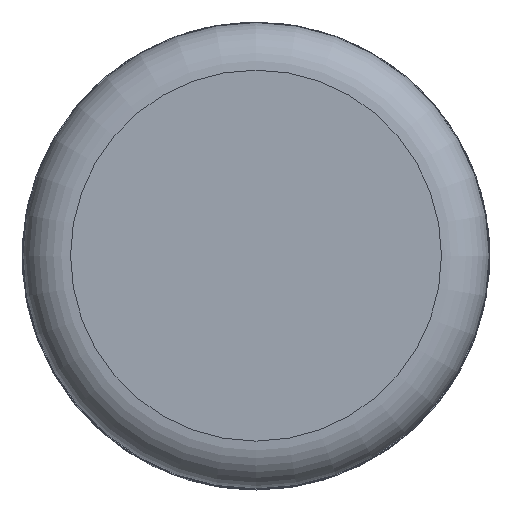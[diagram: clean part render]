
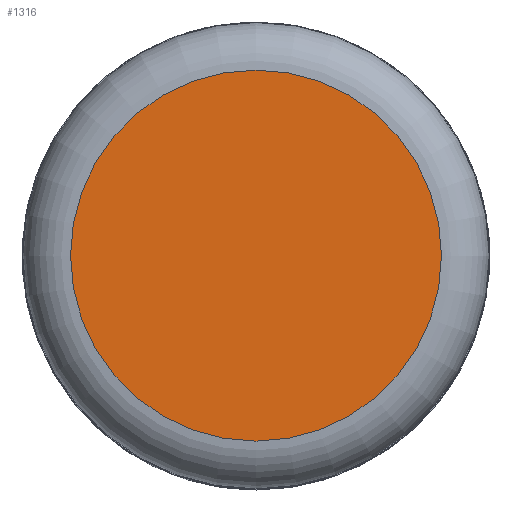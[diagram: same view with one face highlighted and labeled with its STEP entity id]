
A CAD part, top view. The second image highlights one B-rep face of the part: STEP entity #1316.
In plain terms, the highlighted planar face has unit normal (0, 0, 1).
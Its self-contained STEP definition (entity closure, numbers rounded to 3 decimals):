
#377 = CARTESIAN_POINT ( 'NONE',  ( 0., 0., 14. ) ) ;
#578 = ORIENTED_EDGE ( 'NONE', *, *, #586, .T. ) ;
#586 = EDGE_CURVE ( 'NONE', #1739, #1739, #1443, .T. ) ;
#719 = CARTESIAN_POINT ( 'NONE',  ( 0., 0., 14. ) ) ;
#1079 = EDGE_LOOP ( 'NONE', ( #578 ) ) ;
#1186 = DIRECTION ( 'NONE',  ( 0., 0., 1. ) ) ;
#1243 = DIRECTION ( 'NONE',  ( 0., 0., 1. ) ) ;
#1316 = ADVANCED_FACE ( 'NONE', ( #2369 ), #2129, .T. ) ;
#1443 = CIRCLE ( 'NONE', #1960, 11.7 ) ;
#1739 = VERTEX_POINT ( 'NONE', #1980 ) ;
#1797 = AXIS2_PLACEMENT_3D ( 'NONE', #719, #1243, #2990 ) ;
#1960 = AXIS2_PLACEMENT_3D ( 'NONE', #377, #1186, #3166 ) ;
#1980 = CARTESIAN_POINT ( 'NONE',  ( 11.7, 0., 14. ) ) ;
#2129 = PLANE ( 'NONE',  #1797 ) ;
#2369 = FACE_OUTER_BOUND ( 'NONE', #1079, .T. ) ;
#2990 = DIRECTION ( 'NONE',  ( 1., 0., 0. ) ) ;
#3166 = DIRECTION ( 'NONE',  ( 1., 0., 0. ) ) ;
